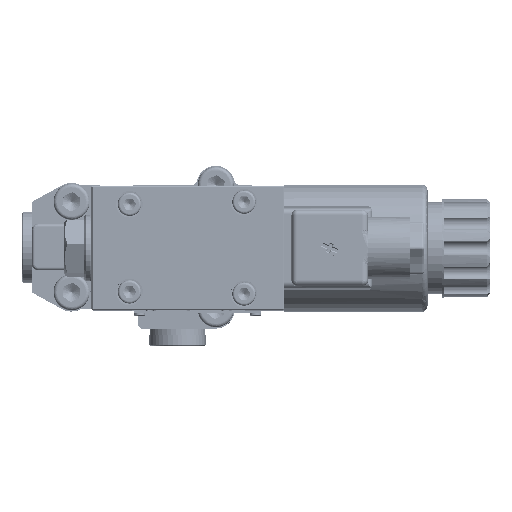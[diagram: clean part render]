
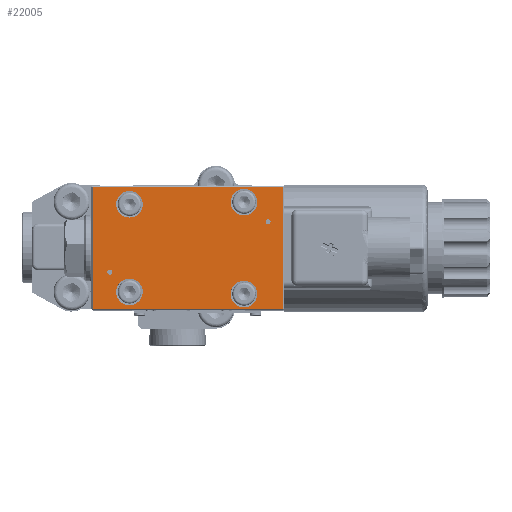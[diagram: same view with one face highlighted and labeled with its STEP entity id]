
A CAD part, top view. The second image highlights one B-rep face of the part: STEP entity #22005.
In plain terms, the highlighted planar face has unit normal (0, 0, 1).
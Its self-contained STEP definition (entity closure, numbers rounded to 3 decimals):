
#769=PLANE('',#28433);
#4383=EDGE_LOOP('',(#11461,#11462,#11463,#11464));
#4384=EDGE_LOOP('',(#11465));
#4385=EDGE_LOOP('',(#11466));
#4386=EDGE_LOOP('',(#11467));
#4387=EDGE_LOOP('',(#11468));
#4388=EDGE_LOOP('',(#11469));
#4389=EDGE_LOOP('',(#11470));
#6044=CIRCLE('',#28427,4.7);
#6045=CIRCLE('',#28428,4.7);
#6046=CIRCLE('',#28429,0.9);
#6047=CIRCLE('',#28430,0.9);
#6048=CIRCLE('',#28431,4.7);
#6049=CIRCLE('',#28432,4.7);
#11461=ORIENTED_EDGE('',*,*,#16102,.T.);
#11462=ORIENTED_EDGE('',*,*,#16103,.T.);
#11463=ORIENTED_EDGE('',*,*,#16104,.T.);
#11464=ORIENTED_EDGE('',*,*,#16105,.T.);
#11465=ORIENTED_EDGE('',*,*,#16106,.F.);
#11466=ORIENTED_EDGE('',*,*,#16107,.F.);
#11467=ORIENTED_EDGE('',*,*,#16108,.T.);
#11468=ORIENTED_EDGE('',*,*,#16109,.T.);
#11469=ORIENTED_EDGE('',*,*,#16110,.F.);
#11470=ORIENTED_EDGE('',*,*,#16111,.T.);
#16102=EDGE_CURVE('',#25752,#25753,#18100,.T.);
#16103=EDGE_CURVE('',#25753,#25754,#18101,.T.);
#16104=EDGE_CURVE('',#25754,#25755,#18102,.T.);
#16105=EDGE_CURVE('',#25755,#25752,#18103,.T.);
#16106=EDGE_CURVE('',#25756,#25756,#6044,.T.);
#16107=EDGE_CURVE('',#25757,#25757,#6045,.T.);
#16108=EDGE_CURVE('',#25758,#25758,#6046,.T.);
#16109=EDGE_CURVE('',#25759,#25759,#6047,.T.);
#16110=EDGE_CURVE('',#25760,#25760,#6048,.T.);
#16111=EDGE_CURVE('',#25761,#25761,#6049,.T.);
#18100=LINE('',#145003,#19273);
#18101=LINE('',#145006,#19274);
#18102=LINE('',#145008,#19275);
#18103=LINE('',#145010,#19276);
#19273=VECTOR('',#33744,1.);
#19274=VECTOR('',#33745,1.);
#19275=VECTOR('',#33746,1.);
#19276=VECTOR('',#33747,1.);
#22005=ADVANCED_FACE('',(#23794,#23795,#23796,#23797,#23798,#23799,#23800),
#769,.T.);
#23794=FACE_BOUND('',#4383,.T.);
#23795=FACE_BOUND('',#4384,.T.);
#23796=FACE_BOUND('',#4385,.T.);
#23797=FACE_BOUND('',#4386,.T.);
#23798=FACE_BOUND('',#4387,.T.);
#23799=FACE_BOUND('',#4388,.T.);
#23800=FACE_BOUND('',#4389,.T.);
#25752=VERTEX_POINT('',#145004);
#25753=VERTEX_POINT('',#145005);
#25754=VERTEX_POINT('',#145007);
#25755=VERTEX_POINT('',#145009);
#25756=VERTEX_POINT('',#145012);
#25757=VERTEX_POINT('',#145014);
#25758=VERTEX_POINT('',#145016);
#25759=VERTEX_POINT('',#145018);
#25760=VERTEX_POINT('',#145020);
#25761=VERTEX_POINT('',#145022);
#28427=AXIS2_PLACEMENT_3D('',#145011,#33748,#33749);
#28428=AXIS2_PLACEMENT_3D('',#145013,#33750,#33751);
#28429=AXIS2_PLACEMENT_3D('',#145015,#33752,#33753);
#28430=AXIS2_PLACEMENT_3D('',#145017,#33754,#33755);
#28431=AXIS2_PLACEMENT_3D('',#145019,#33756,#33757);
#28432=AXIS2_PLACEMENT_3D('',#145021,#33758,#33759);
#28433=AXIS2_PLACEMENT_3D('',#145023,#33760,#33761);
#33744=DIRECTION('',(1.,0.,0.));
#33745=DIRECTION('',(0.,1.,0.));
#33746=DIRECTION('',(-1.,0.,0.));
#33747=DIRECTION('',(0.,-1.,0.));
#33748=DIRECTION('',(0.,0.,1.));
#33749=DIRECTION('',(1.,0.,0.));
#33750=DIRECTION('',(0.,0.,1.));
#33751=DIRECTION('',(1.,0.,0.));
#33752=DIRECTION('',(0.,0.,-1.));
#33753=DIRECTION('',(1.,0.,0.));
#33754=DIRECTION('',(0.,0.,-1.));
#33755=DIRECTION('',(1.,0.,0.));
#33756=DIRECTION('',(0.,0.,1.));
#33757=DIRECTION('',(1.,0.,0.));
#33758=DIRECTION('',(0.,0.,-1.));
#33759=DIRECTION('',(1.,0.,0.));
#33760=DIRECTION('',(0.,0.,1.));
#33761=DIRECTION('',(1.,0.,0.));
#145003=CARTESIAN_POINT('',(-775.26,-78.932,206.3));
#145004=CARTESIAN_POINT('',(-724.76,-78.932,206.3));
#145005=CARTESIAN_POINT('',(-657.46,-78.932,206.3));
#145006=CARTESIAN_POINT('',(-657.46,-35.432,206.3));
#145007=CARTESIAN_POINT('',(-657.46,-35.932,206.3));
#145008=CARTESIAN_POINT('',(-775.26,-35.932,206.3));
#145009=CARTESIAN_POINT('',(-724.76,-35.932,206.3));
#145010=CARTESIAN_POINT('',(-724.76,-35.432,206.3));
#145011=CARTESIAN_POINT('',(-671.26,-41.182,206.3));
#145012=CARTESIAN_POINT('',(-666.56,-41.182,206.3));
#145013=CARTESIAN_POINT('',(-711.76,-72.932,206.3));
#145014=CARTESIAN_POINT('',(-707.06,-72.932,206.3));
#145015=CARTESIAN_POINT('',(-662.76,-48.182,206.3));
#145016=CARTESIAN_POINT('',(-661.86,-48.182,206.3));
#145017=CARTESIAN_POINT('',(-718.76,-65.932,206.3));
#145018=CARTESIAN_POINT('',(-717.86,-65.932,206.3));
#145019=CARTESIAN_POINT('',(-711.76,-41.932,206.3));
#145020=CARTESIAN_POINT('',(-707.06,-41.932,206.3));
#145021=CARTESIAN_POINT('',(-671.26,-73.682,206.3));
#145022=CARTESIAN_POINT('',(-666.56,-73.682,206.3));
#145023=CARTESIAN_POINT('',(-775.26,-35.432,206.3));
